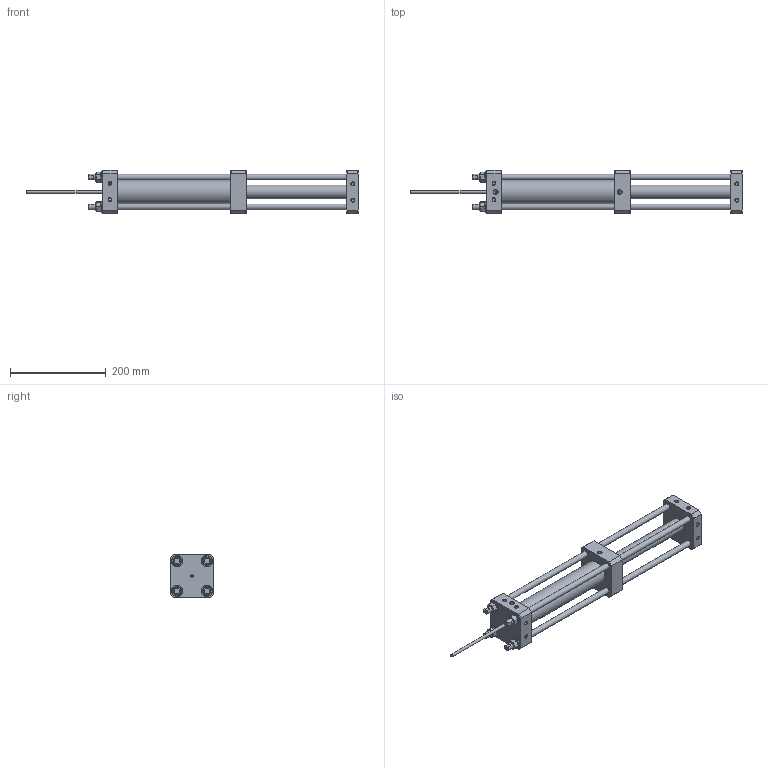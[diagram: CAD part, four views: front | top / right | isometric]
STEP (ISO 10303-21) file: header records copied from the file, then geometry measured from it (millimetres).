
FILE_DESCRIPTION(/* description */ (''),/* implementation_level */ '2;1');
FILE_NAME(/* name */ 'H13.1600.STP',/* time_stamp */ '2026-06-09T22:19:51+02:00',/* author */ ('janos'),/* organization */ (''),/* preprocessor_version */ 'ST-DEVELOPER v19.2',/* originating_system */ 'Autodesk Inventor 2024',/* authorisation */ '');
FILE_SCHEMA (('AUTOMOTIVE_DESIGN { 1 0 10303 214 3 1 1 }'));
Length unit declared in the file: millimetre
Products named in the file (1): HDÜ.BG.1600.13.1_Vereinfachen_1
Bounding box: 692 x 90 x 90 mm (x, y, z)
Volume: 1510376.5 mm3; surface area: 221668.3 mm2
Topology: 1 solids, 1 shells, 238 faces, 595 edges, 376 vertices
Faces by surface type: plane 91, cone 89, cylinder 57, torus 1
Full cylindrical faces by diameter (mm): 3 x2, 6 x1, 6.647 x16, 8.566 x2, 12 x8, 13 x4, 14.376 x1, 24 x4, 29 x1, 45 x1, 50 x1
Entity records: 7330 total; most frequent: CARTESIAN_POINT 1480, DIRECTION 1184, ORIENTED_EDGE 1158, EDGE_CURVE 579, AXIS2_PLACEMENT_3D 476, VERTEX_POINT 376, EDGE_LOOP 291, STYLED_ITEM 239
